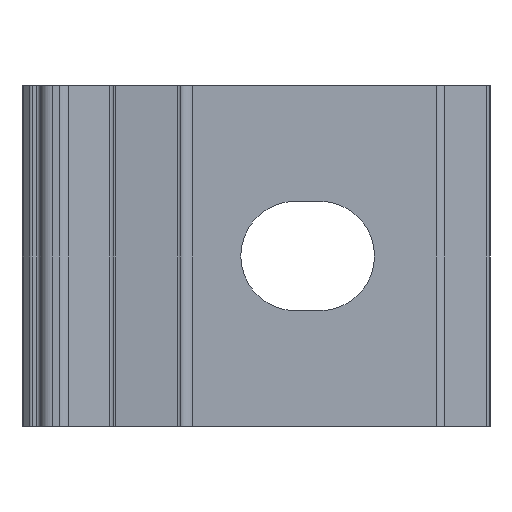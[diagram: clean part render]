
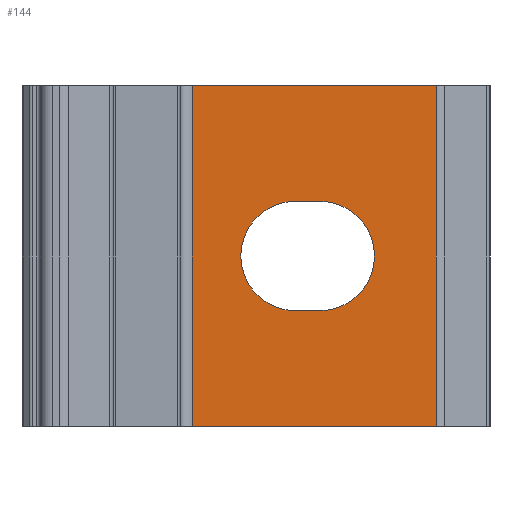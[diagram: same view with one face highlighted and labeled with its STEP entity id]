
A CAD part, front view. The second image highlights one B-rep face of the part: STEP entity #144.
In plain terms, the highlighted planar face has unit normal (0, -1, 0).
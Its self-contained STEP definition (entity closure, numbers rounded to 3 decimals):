
#1 = DIRECTION ( 'NONE',  ( -1., 0., 0. ) ) ;
#16 = AXIS2_PLACEMENT_3D ( 'NONE', #139, #481, #1 ) ;
#29 = CIRCLE ( 'NONE', #16, 4.5 ) ;
#63 = LINE ( 'NONE', #1396, #1287 ) ;
#90 = CARTESIAN_POINT ( 'NONE',  ( 34.086, 54.5, 28. ) ) ;
#98 = DIRECTION ( 'NONE',  ( -1., 0., 0. ) ) ;
#101 = VERTEX_POINT ( 'NONE', #437 ) ;
#123 = DIRECTION ( 'NONE',  ( -1., 0., 0. ) ) ;
#139 = CARTESIAN_POINT ( 'NONE',  ( 24.5, 54.5, 14. ) ) ;
#144 = ADVANCED_FACE ( 'NONE', ( #514, #1420 ), #307, .T. ) ;
#183 = CARTESIAN_POINT ( 'NONE',  ( 34.086, 54.5, 28. ) ) ;
#224 = CARTESIAN_POINT ( 'NONE',  ( 22.5, 54.5, 9.5 ) ) ;
#231 = DIRECTION ( 'NONE',  ( 0., 0., -1. ) ) ;
#256 = VERTEX_POINT ( 'NONE', #588 ) ;
#263 = VECTOR ( 'NONE', #231, 1000. ) ;
#264 = DIRECTION ( 'NONE',  ( 1., 0., 0. ) ) ;
#307 = PLANE ( 'NONE',  #327 ) ;
#325 = ORIENTED_EDGE ( 'NONE', *, *, #821, .T. ) ;
#327 = AXIS2_PLACEMENT_3D ( 'NONE', #183, #1139, #565 ) ;
#333 = DIRECTION ( 'NONE',  ( 0., 1., 0. ) ) ;
#350 = CARTESIAN_POINT ( 'NONE',  ( 34.086, 54.5, 18.5 ) ) ;
#364 = DIRECTION ( 'NONE',  ( -1., 0., 0. ) ) ;
#393 = EDGE_CURVE ( 'NONE', #1527, #813, #29, .T. ) ;
#417 = EDGE_CURVE ( 'NONE', #654, #256, #1198, .T. ) ;
#431 = CARTESIAN_POINT ( 'NONE',  ( 24.5, 54.5, 9.5 ) ) ;
#437 = CARTESIAN_POINT ( 'NONE',  ( 34.086, 54.5, 28. ) ) ;
#459 = VERTEX_POINT ( 'NONE', #715 ) ;
#461 = CARTESIAN_POINT ( 'NONE',  ( 22.5, 54.5, 14. ) ) ;
#481 = DIRECTION ( 'NONE',  ( 0., 1., 0. ) ) ;
#484 = AXIS2_PLACEMENT_3D ( 'NONE', #461, #333, #123 ) ;
#514 = FACE_BOUND ( 'NONE', #1022, .T. ) ;
#534 = AXIS2_PLACEMENT_3D ( 'NONE', #704, #609, #364 ) ;
#551 = VECTOR ( 'NONE', #264, 1000. ) ;
#554 = CARTESIAN_POINT ( 'NONE',  ( 34.086, 54.5, 0. ) ) ;
#565 = DIRECTION ( 'NONE',  ( 1., 0., 0. ) ) ;
#588 = CARTESIAN_POINT ( 'NONE',  ( 14., 54.5, 0. ) ) ;
#606 = EDGE_CURVE ( 'NONE', #654, #101, #1009, .T. ) ;
#609 = DIRECTION ( 'NONE',  ( 0., 1., 0. ) ) ;
#654 = VERTEX_POINT ( 'NONE', #1251 ) ;
#663 = DIRECTION ( 'NONE',  ( 1., 0., 0. ) ) ;
#704 = CARTESIAN_POINT ( 'NONE',  ( 22.5, 54.5, 14. ) ) ;
#715 = CARTESIAN_POINT ( 'NONE',  ( 22.5, 54.5, 18.5 ) ) ;
#739 = CARTESIAN_POINT ( 'NONE',  ( 34.086, 54.5, 28. ) ) ;
#757 = VERTEX_POINT ( 'NONE', #1362 ) ;
#779 = ORIENTED_EDGE ( 'NONE', *, *, #417, .T. ) ;
#797 = ORIENTED_EDGE ( 'NONE', *, *, #1463, .T. ) ;
#802 = EDGE_CURVE ( 'NONE', #256, #815, #1457, .T. ) ;
#813 = VERTEX_POINT ( 'NONE', #431 ) ;
#815 = VERTEX_POINT ( 'NONE', #1031 ) ;
#821 = EDGE_CURVE ( 'NONE', #813, #1430, #63, .T. ) ;
#833 = LINE ( 'NONE', #350, #1134 ) ;
#857 = LINE ( 'NONE', #90, #876 ) ;
#876 = VECTOR ( 'NONE', #1395, 1000. ) ;
#906 = ORIENTED_EDGE ( 'NONE', *, *, #606, .F. ) ;
#912 = ORIENTED_EDGE ( 'NONE', *, *, #1346, .T. ) ;
#943 = DIRECTION ( 'NONE',  ( 1., 0., 0. ) ) ;
#961 = CARTESIAN_POINT ( 'NONE',  ( 24.5, 54.5, 18.5 ) ) ;
#999 = ORIENTED_EDGE ( 'NONE', *, *, #393, .T. ) ;
#1009 = LINE ( 'NONE', #739, #551 ) ;
#1022 = EDGE_LOOP ( 'NONE', ( #912, #797, #1076, #999, #325 ) ) ;
#1031 = CARTESIAN_POINT ( 'NONE',  ( 34.086, 54.5, 0. ) ) ;
#1076 = ORIENTED_EDGE ( 'NONE', *, *, #1356, .T. ) ;
#1134 = VECTOR ( 'NONE', #943, 1000. ) ;
#1139 = DIRECTION ( 'NONE',  ( 0., -1., 0. ) ) ;
#1198 = LINE ( 'NONE', #1301, #263 ) ;
#1249 = EDGE_LOOP ( 'NONE', ( #779, #1335, #1423, #906 ) ) ;
#1251 = CARTESIAN_POINT ( 'NONE',  ( 14., 54.5, 28. ) ) ;
#1287 = VECTOR ( 'NONE', #98, 1000. ) ;
#1296 = EDGE_CURVE ( 'NONE', #815, #101, #857, .T. ) ;
#1301 = CARTESIAN_POINT ( 'NONE',  ( 14., 54.5, 28. ) ) ;
#1320 = CIRCLE ( 'NONE', #534, 4.5 ) ;
#1335 = ORIENTED_EDGE ( 'NONE', *, *, #802, .T. ) ;
#1346 = EDGE_CURVE ( 'NONE', #1430, #757, #1375, .T. ) ;
#1356 = EDGE_CURVE ( 'NONE', #459, #1527, #833, .T. ) ;
#1362 = CARTESIAN_POINT ( 'NONE',  ( 18., 54.5, 14. ) ) ;
#1375 = CIRCLE ( 'NONE', #484, 4.5 ) ;
#1395 = DIRECTION ( 'NONE',  ( 0., 0., 1. ) ) ;
#1396 = CARTESIAN_POINT ( 'NONE',  ( 34.086, 54.5, 9.5 ) ) ;
#1420 = FACE_OUTER_BOUND ( 'NONE', #1249, .T. ) ;
#1423 = ORIENTED_EDGE ( 'NONE', *, *, #1296, .T. ) ;
#1430 = VERTEX_POINT ( 'NONE', #224 ) ;
#1457 = LINE ( 'NONE', #554, #1480 ) ;
#1463 = EDGE_CURVE ( 'NONE', #757, #459, #1320, .T. ) ;
#1480 = VECTOR ( 'NONE', #663, 1000. ) ;
#1527 = VERTEX_POINT ( 'NONE', #961 ) ;
